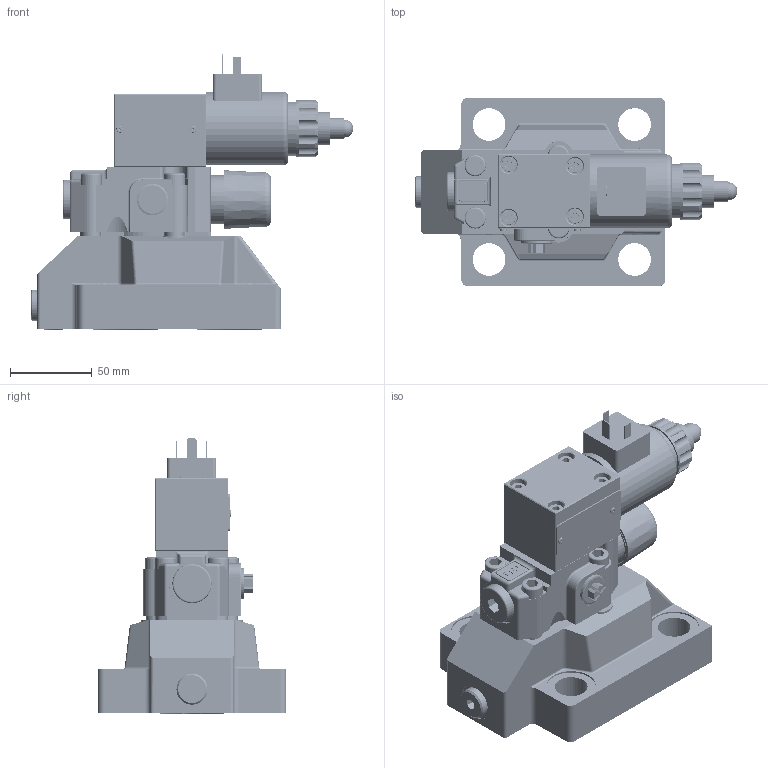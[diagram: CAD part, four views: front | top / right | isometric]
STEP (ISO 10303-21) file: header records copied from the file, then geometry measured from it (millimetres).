
FILE_DESCRIPTION(/* description */ (''),/* implementation_level */ '2;1');
FILE_NAME(/* name */ 'DBEM30-7X.stp',/* time_stamp */ '2024-10-11T08:18:17+08:00',/* author */ (''),/* organization */ (''),/* preprocessor_version */ 'ST-DEVELOPER v16.7',/* originating_system */ 'SIEMENS PLM Software NX 12.0',/* authorisation */ '');
FILE_SCHEMA (('AUTOMOTIVE_DESIGN { 1 0 10303 214 3 1 1 1 }'));
Products named in the file (1): DBEM30-7XJ
Bounding box: 197.3 x 115 x 168.53 mm (x, y, z)
Volume: 279543.3 mm3; surface area: 224708.3 mm2
Topology: 67 solids, 72 shells, 2119 faces, 5405 edges, 3508 vertices
Faces by surface type: cylinder 858, plane 694, cone 192, bspline 165, extrusion 146, torus 55, revolution 5, sphere 4
Full cylindrical faces by diameter (mm): 0.8 x3, 1 x3, 1.5 x5, 1.6 x1, 1.8 x6, 2 x7, 3 x8, 3.3 x14, 3.4 x22, 4 x5, 4.2 x1, 4.3 x48, 4.8 x1, 5 x120, 5.4 x1, 5.5 x3, 5.6 x3, 6 x4, 6.7 x1, 7 x50, 7.49 x1, 7.5 x1, 7.54 x1, 8 x85, 8.3 x1, 8.4 x6, 8.5 x4, 8.8 x1, 9 x3, 9.5 x1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
Entity records: 197640 total; most frequent: CARTESIAN_POINT 158051, ORIENTED_EDGE 7486, DIRECTION 6696, EDGE_CURVE 3743, VERTEX_POINT 2661, AXIS2_PLACEMENT_3D 2648, EDGE_LOOP 2454, ADVANCED_FACE 1784
